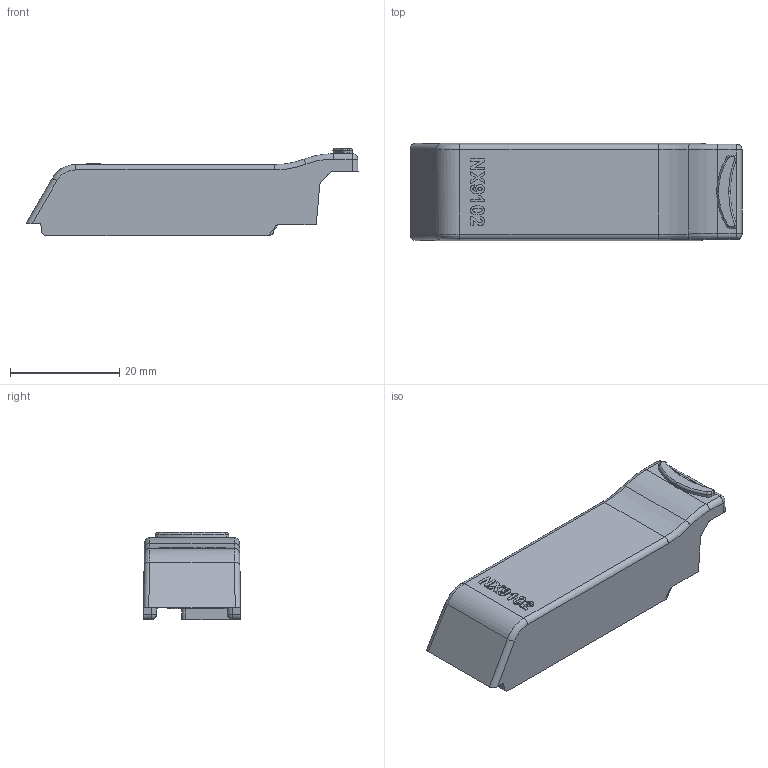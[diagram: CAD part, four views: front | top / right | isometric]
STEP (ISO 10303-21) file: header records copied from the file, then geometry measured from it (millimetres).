
FILE_DESCRIPTION (( 'STEP AP214' ), '1' );
FILE_NAME ('NX9102_20180629.STEP', '2018-06-29T18:15:35', ( 'ALTUS' ), ( '' ), 'SwSTEP 2.0', 'SolidWorks 2011', '' );
FILE_SCHEMA (( 'AUTOMOTIVE_DESIGN' ));
Length unit declared in the file: millimetre
Products named in the file (1): NX9102_20180629
Bounding box: 60.83 x 17.9 x 15.96 mm (x, y, z)
Volume: 6389.3 mm3; surface area: 5652.9 mm2
Topology: 1 solids, 1 shells, 247 faces, 648 edges, 403 vertices
Faces by surface type: plane 102, cylinder 69, bspline 55, sphere 8, cone 7, torus 6
Entity records: 9955 total; most frequent: CARTESIAN_POINT 4538, ORIENTED_EDGE 1280, DIRECTION 901, EDGE_CURVE 640, VERTEX_POINT 403, LINE 349, VECTOR 349, AXIS2_PLACEMENT_3D 276
